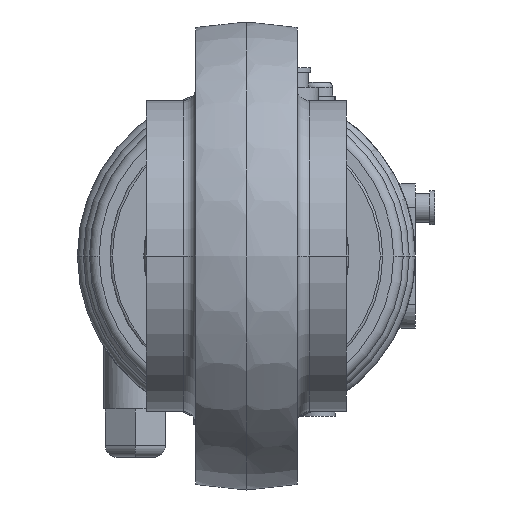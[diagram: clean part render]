
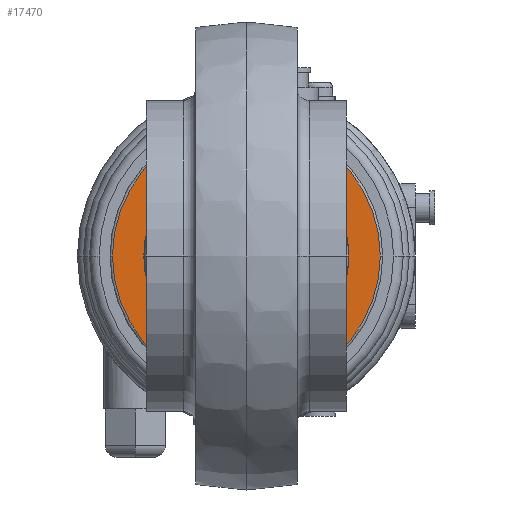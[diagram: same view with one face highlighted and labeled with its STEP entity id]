
A CAD part, front view. The second image highlights one B-rep face of the part: STEP entity #17470.
In plain terms, the highlighted planar face has unit normal (0, -1, 0).
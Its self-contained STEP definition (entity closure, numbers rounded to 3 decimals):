
#11400=CARTESIAN_POINT('',(-81.303,202.085,25.));
#11410=VERTEX_POINT('',#11400);
#11590=CARTESIAN_POINT('',(-12.565,202.085,25.));
#11600=VERTEX_POINT('',#11590);
#11630=CARTESIAN_POINT('',(-46.934,202.085,0.));
#11640=DIRECTION('',(0.,1.,0.));
#11650=DIRECTION('',(1.,0.,0.));
#11660=AXIS2_PLACEMENT_3D('',#11630,#11640,#11650);
#11670=CIRCLE('',#11660,42.5);
#11680=CARTESIAN_POINT('',(-4.434,202.085,
0.));
#11690=VERTEX_POINT('',#11680);
#11700=EDGE_CURVE('',#11600,#11690,#11670,.T.);
#11840=CARTESIAN_POINT('',(-89.434,202.085,0.));
#11850=VERTEX_POINT('',#11840);
#11880=EDGE_CURVE('',#11850,#11410,#11670,.T.);
#13830=CARTESIAN_POINT('',(-67.701,202.085,-25.));
#13840=VERTEX_POINT('',#13830);
#13870=CARTESIAN_POINT('',(-46.934,202.085,-25.));
#13880=DIRECTION('',(1.,0.,0.));
#13890=VECTOR('',#13880,1.);
#13900=LINE('',#13870,#13890);
#13910=CARTESIAN_POINT('',(-81.303,202.085,-25.));
#13920=VERTEX_POINT('',#13910);
#13930=EDGE_CURVE('',#13920,#13840,#13900,.T.);
#14930=CARTESIAN_POINT('',(-46.934,202.085,25.));
#14940=DIRECTION('',(1.,0.,0.));
#14950=VECTOR('',#14940,1.);
#14960=LINE('',#14930,#14950);
#14970=CARTESIAN_POINT('',(-67.701,202.085,25.));
#14980=VERTEX_POINT('',#14970);
#14990=EDGE_CURVE('',#11410,#14980,#14960,.T.);
#16890=CARTESIAN_POINT('',(-46.934,202.085,0.));
#16900=DIRECTION('',(0.,1.,0.));
#16910=DIRECTION('',(1.,0.,0.));
#16920=AXIS2_PLACEMENT_3D('',#16890,#16900,#16910);
#16930=CIRCLE('',#16920,32.5);
#16940=EDGE_CURVE('',#13840,#14980,#16930,.T.);
#17020=CARTESIAN_POINT('',(2.066,202.085,0.));
#17030=DIRECTION('',(0.,-1.,-0.));
#17040=DIRECTION('',(-1.,0.,0.));
#17050=AXIS2_PLACEMENT_3D('',#17020,#17030,#17040);
#17060=PLANE('',#17050);
#17070=ORIENTED_EDGE('',*,*,#11880,.T.);
#17080=EDGE_CURVE('',#13920,#11850,#11670,.T.);
#17090=ORIENTED_EDGE('',*,*,#17080,.T.);
#17100=ORIENTED_EDGE('',*,*,#13930,.F.);
#17110=ORIENTED_EDGE('',*,*,#16940,.F.);
#17120=ORIENTED_EDGE('',*,*,#14990,.T.);
#17130=EDGE_LOOP('',(#17120,#17110,#17100,#17090,#17070));
#17140=FACE_BOUND('',#17130,.T.);
#17150=CARTESIAN_POINT('',(-46.934,202.085,0.));
#17160=DIRECTION('',(0.,1.,0.));
#17170=DIRECTION('',(1.,0.,0.));
#17180=AXIS2_PLACEMENT_3D('',#17150,#17160,#17170);
#17190=CIRCLE('',#17180,55.5);
#17200=CARTESIAN_POINT('',(-102.434,202.085,0.));
#17210=VERTEX_POINT('',#17200);
#17220=CARTESIAN_POINT('',(8.566,202.085,0.));
#17230=VERTEX_POINT('',#17220);
#17240=EDGE_CURVE('',#17210,#17230,#17190,.T.);
#17250=ORIENTED_EDGE('',*,*,#17240,.F.);
#17260=EDGE_CURVE('',#17230,#17210,#17190,.T.);
#17270=ORIENTED_EDGE('',*,*,#17260,.F.);
#17280=EDGE_LOOP('',(#17270,#17250));
#17290=FACE_OUTER_BOUND('',#17280,.T.);
#17300=CARTESIAN_POINT('',(-26.167,202.085,25.));
#17310=VERTEX_POINT('',#17300);
#17320=CARTESIAN_POINT('',(-26.167,202.085,-25.));
#17330=VERTEX_POINT('',#17320);
#17340=EDGE_CURVE('',#17310,#17330,#16930,.T.);
#17350=ORIENTED_EDGE('',*,*,#17340,.F.);
#17360=CARTESIAN_POINT('',(-12.565,202.085,-25.));
#17370=VERTEX_POINT('',#17360);
#17380=EDGE_CURVE('',#17330,#17370,#13900,.T.);
#17390=ORIENTED_EDGE('',*,*,#17380,.F.);
#17400=EDGE_CURVE('',#11690,#17370,#11670,.T.);
#17410=ORIENTED_EDGE('',*,*,#17400,.T.);
#17420=ORIENTED_EDGE('',*,*,#11700,.T.);
#17430=EDGE_CURVE('',#17310,#11600,#14960,.T.);
#17440=ORIENTED_EDGE('',*,*,#17430,.T.);
#17450=EDGE_LOOP('',(#17440,#17420,#17410,#17390,#17350));
#17460=FACE_BOUND('',#17450,.T.);
#17470=ADVANCED_FACE('',(#17140,#17290,#17460),#17060,.T.);
